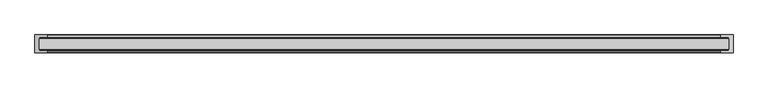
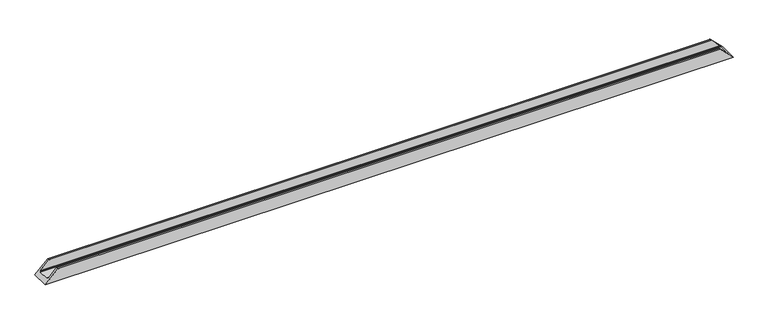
"""IFC4 building model written with IfcOpenShell, lengths in millimetres: proxy geometry, Weiku - Montante - Caixilho único 02.3.02.403 : Weiku - Montante - Caixilho único 02.3.02.403."""

from ifc_helpers import new_model, si_unit, frame, origin, place, context, project, spatial, ellipse_curve, source, transform, mapped, element, save
from ifc_brep_helpers import plane_surface, cylinder_surface, advanced_brep


def generic_models_613bac8b(model_context):
    return source(origin(), model_context, "Body", "AdvancedBrep", [
        advanced_brep(
        [(-1508.0, 9.8, 18.2), (-1470.3, 9.8, 55.9), (1470.3, 9.8, 55.9), (1508.0, 9.8, 18.2), (-1510.5000079, 63.85, 15.6999921), (-1510.5000079, 15.05, 15.6999921), (1510.5000079, 15.05, 15.6999921), (1510.5000079, 63.85, 15.6999921), (-1526.2, 78.9, 0.0), (1526.2, 78.9, 0.0), (1526.2, 0.0, 0.0), (-1526.2, 0.0, 0.0), (1470.3, 0.0, 55.9), (-1470.3, 0.0, 55.9), (-1469.8, 9.3, 56.4), (-1469.8, 0.5, 56.4), (1469.8, 0.5, 56.4), (1469.8, 9.3, 56.4), (-1508.0, 15.05, 18.2), (1508.0, 15.05, 18.2), (-1508.0, 63.85, 18.2), (1508.0, 63.85, 18.2), (-1508.0, 69.1, 18.2), (1508.0, 69.1, 18.2), (-1470.3, 69.1, 55.9), (1470.3, 69.1, 55.9), (-1469.8, 78.4, 56.4), (-1469.8, 69.6, 56.4), (1469.8, 69.6, 56.4), (1469.8, 78.4, 56.4), (-1470.3, 78.9, 55.9), (1470.3, 78.9, 55.9)],
        [
            (0, 1),
            (1, 2),
            (2, 3),
            (3, 0),
            (4, 5),
            (5, 6),
            (6, 7),
            (7, 4),
            (8, 9),
            (9, 10),
            (10, 11),
            (11, 8),
            (10, 12),
            (12, 13),
            (13, 11),
            (14, 15),
            (15, 16),
            (16, 17),
            (17, 14),
            (18, 0),
            (3, 19),
            (19, 18),
            (5, 18),
            (19, 6),
            (15, 13, ellipse_curve(frame((-1470.3, 0.5, 55.9), z_axis=(0.7071067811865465, 0.0, -0.7071067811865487), x_axis=(-0.7071067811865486, 0.0, -0.7071067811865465)), 0.7071068, 0.5)),
            (12, 16, ellipse_curve(frame((1470.3, 0.5, 55.9), z_axis=(-0.7071067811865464, 0.0, -0.7071067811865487), x_axis=(-0.7071067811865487, 0.0, 0.7071067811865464)), 0.7071068, 0.5)),
            (20, 4),
            (7, 21),
            (21, 20),
            (22, 20),
            (21, 23),
            (23, 22),
            (24, 22),
            (23, 25),
            (25, 24),
            (26, 27),
            (27, 28),
            (28, 29),
            (29, 26),
            (30, 26, ellipse_curve(frame((-1470.3, 78.4, 55.9), z_axis=(0.7071067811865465, 0.0, -0.7071067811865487), x_axis=(-0.7071067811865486, 0.0, -0.7071067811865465)), 0.7071068, 0.5)),
            (29, 31, ellipse_curve(frame((1470.3, 78.4, 55.9), z_axis=(-0.7071067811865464, 0.0, -0.7071067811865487), x_axis=(-0.7071067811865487, 0.0, 0.7071067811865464)), 0.7071068, 0.5)),
            (31, 30),
            (8, 30),
            (31, 9),
            (1, 14, ellipse_curve(frame((-1470.3, 9.3, 55.9), z_axis=(0.7071067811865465, 0.0, -0.7071067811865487), x_axis=(-0.7071067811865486, 0.0, -0.7071067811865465)), 0.7071068, 0.5)),
            (17, 2, ellipse_curve(frame((1470.3, 9.3, 55.9), z_axis=(-0.7071067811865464, 0.0, -0.7071067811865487), x_axis=(-0.7071067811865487, 0.0, 0.7071067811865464)), 0.7071068, 0.5)),
            (27, 24, ellipse_curve(frame((-1470.3, 69.6, 55.9), z_axis=(0.7071067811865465, 0.0, -0.7071067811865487), x_axis=(-0.7071067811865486, 0.0, -0.7071067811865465)), 0.7071068, 0.5)),
            (25, 28, ellipse_curve(frame((1470.3, 69.6, 55.9), z_axis=(-0.7071067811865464, 0.0, -0.7071067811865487), x_axis=(-0.7071067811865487, 0.0, 0.7071067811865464)), 0.7071068, 0.5)),
        ],
        [
            plane_surface(frame((-1526.2, 9.8, 55.9), z_axis=(0.0, 1.0, 0.0), x_axis=(1.0, 0.0, 0.0))),
            plane_surface(frame((-1526.2, 15.05, 15.6999921), z_axis=(0.0, 0.0, 1.0), x_axis=(1.0, 0.0, 0.0))),
            plane_surface(frame((-1526.2, 78.9, 0.0), z_axis=(0.0, 0.0, -1.0), x_axis=(1.0, 0.0, 0.0))),
            plane_surface(frame((-1526.2, 0.0, 0.0), z_axis=(0.0, -1.0, 0.0), x_axis=(1.0, 0.0, 0.0))),
            plane_surface(frame((-1526.2, 0.5, 56.4), z_axis=(0.0, 0.0, 1.0), x_axis=(1.0, 0.0, 0.0))),
            plane_surface(frame((-1526.2, 9.8, 18.2), z_axis=(0.0, 0.0, 1.0), x_axis=(1.0, 0.0, 0.0))),
            plane_surface(frame((-1526.2, 15.05, 18.2), z_axis=(0.0, 1.0, 0.0), x_axis=(1.0, 0.0, 0.0))),
            cylinder_surface(frame((-1526.2, 0.5, 55.9), z_axis=(-1.0, 0.0, 0.0), x_axis=(0.0, 1.0, 0.0)), 0.5),
            plane_surface(frame((-1526.2, 63.85, 15.6999921), z_axis=(0.0, -1.0, 0.0), x_axis=(1.0, 0.0, 0.0))),
            plane_surface(frame((-1526.2, 63.85, 18.2), z_axis=(0.0, 0.0, 1.0), x_axis=(1.0, 0.0, 0.0))),
            plane_surface(frame((-1526.2, 69.1, 18.2), z_axis=(0.0, -1.0, 0.0), x_axis=(1.0, 0.0, 0.0))),
            plane_surface(frame((-1526.2, 69.6, 56.4), z_axis=(0.0, 0.0, 1.0), x_axis=(1.0, 0.0, 0.0))),
            cylinder_surface(frame((-1526.2, 78.4, 55.9), z_axis=(-1.0, 0.0, 0.0), x_axis=(0.0, -1.0, 0.0)), 0.5),
            plane_surface(frame((-1526.2, 78.9, 55.9), z_axis=(0.0, 1.0, 0.0), x_axis=(1.0, 0.0, 0.0))),
            cylinder_surface(frame((-1526.2, 9.3, 55.9), z_axis=(-1.0, 0.0, 0.0), x_axis=(0.0, 1.0, 0.0)), 0.5),
            cylinder_surface(frame((-1526.2, 69.6, 55.9), z_axis=(-1.0, 0.0, 0.0), x_axis=(0.0, 1.0, 0.0)), 0.5),
            plane_surface(frame((-1526.2, 0.0, 0.0), z_axis=(-0.7071067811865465, 0.0, 0.7071067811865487), x_axis=(0.0, 1.0, 0.0))),
            plane_surface(frame((1466.2, 0.0, 60.0), z_axis=(0.7071067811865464, 0.0, 0.7071067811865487), x_axis=(0.0, 1.0, 0.0))),
        ],
        [
            (0, [[1, 2, 3, 4]]),
            (1, [[5, 6, 7, 8]]),
            (2, [[9, 10, 11, 12]]),
            (3, [[-11, 13, 14, 15]]),
            (4, [[16, 17, 18, 19]]),
            (5, [[20, -4, 21, 22]]),
            (6, [[23, -22, 24, -6]]),
            (7, [[25, -14, 26, -17]]),
            (8, [[27, -8, 28, 29]]),
            (9, [[30, -29, 31, 32]]),
            (10, [[33, -32, 34, 35]]),
            (11, [[36, 37, 38, 39]]),
            (12, [[40, -39, 41, 42]]),
            (13, [[-9, 43, -42, 44]]),
            (14, [[45, -19, 46, -2]]),
            (15, [[47, -35, 48, -37]]),
            (16, [[-1, -20, -23, -5, -27, -30, -33, -47, -36, -40, -43, -12, -15, -25, -16, -45]]),
            (17, [[-3, -46, -18, -26, -13, -10, -44, -41, -38, -48, -34, -31, -28, -7, -24, -21]]),
        ],
    ),
    ])


if __name__ == "__main__":
    model = new_model("IFC4")
    model_context = context("Model", 3, world=origin())
    ifc_project = project(units=[si_unit("LENGTHUNIT", "METRE", prefix="MILLI")], contexts=[model_context])
    site = spatial("IfcSite", under=ifc_project)
    building = spatial("IfcBuilding", under=site)
    placement = place(None, origin())
    generic_models_shape = generic_models_613bac8b(model_context)
    element("IfcBuildingElementProxy", 1, Name="Weiku - Montante - Caixilho único 02.3.02.403 : Weiku - Montante - Caixilho único 02.3.02.403", ObjectType="Weiku - Montante - Caixilho único 02.3.02.403 : Weiku - Montante - Caixilho único 02.3.02.403", at=placement, inside=building, context=model_context, shape_type="MappedRepresentation", body=[
        mapped(generic_models_shape, transform((0.0, 0.0, 0.0), x_axis=(1.0, 0.0, 0.0), y_axis=(0.0, 1.0, 0.0), z_axis=(0.0, 0.0, 1.0))),
    ])
    save(model, "model.ifc")
